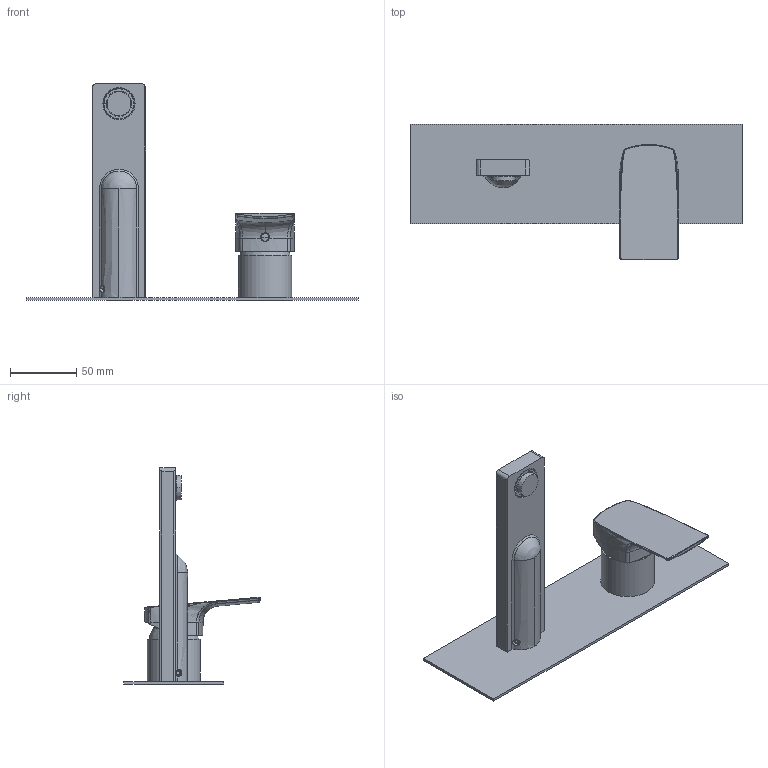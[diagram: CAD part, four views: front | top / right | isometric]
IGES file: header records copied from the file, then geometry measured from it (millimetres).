
Start section:  PTC IGES file: 3d_sw0006.igs
Global section: file name: 3d_sw0006.igs; native system: Creo Parametric by PTC Inc.; preprocessor: 2022014; author: volponeff; organization: Unknown; date: 20241007.152946; units: millimetre
Bounding box: 250 x 102.5 x 163 mm (x, y, z)
Surface area: 107823.4 mm2 (no closed solid volume)
Topology: 0 solids, 0 shells, 937 faces, 5289 edges, 5280 vertices
Faces by surface type: revolution 531, bspline 406
